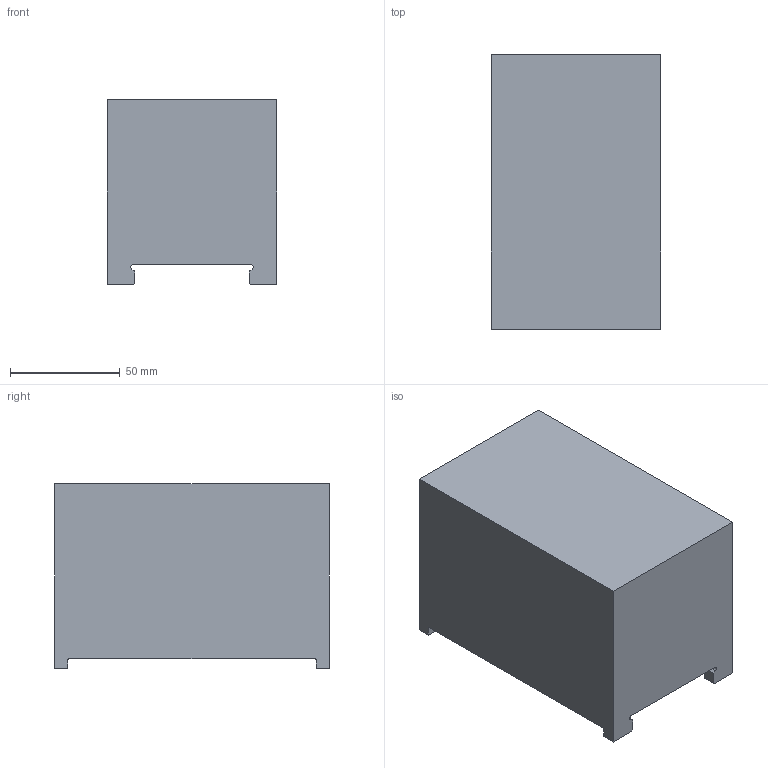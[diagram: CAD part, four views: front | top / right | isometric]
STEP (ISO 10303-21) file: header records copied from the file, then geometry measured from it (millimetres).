
FILE_DESCRIPTION (( 'STEP AP203' ), '1' );
FILE_NAME ('682430-84.STEP', '2020-05-15T08:00:02', ( '' ), ( '' ), 'SwSTEP 2.0', 'SolidWorks 2018', '' );
FILE_SCHEMA (( 'CONFIG_CONTROL_DESIGN' ));
Length unit declared in the file: millimetre
Products named in the file (2): 682430-84
Bounding box: 77 x 125 x 84 mm (x, y, z)
Volume: 737212.2 mm3; surface area: 53268.5 mm2
Topology: 1 solids, 1 shells, 36 faces, 102 edges, 68 vertices
Faces by surface type: plane 26, cylinder 10
Entity records: 1313 total; most frequent: CARTESIAN_POINT 232, ORIENTED_EDGE 204, DIRECTION 182, EDGE_CURVE 102, VECTOR 82, LINE 82, VERTEX_POINT 68, AXIS2_PLACEMENT_3D 50
